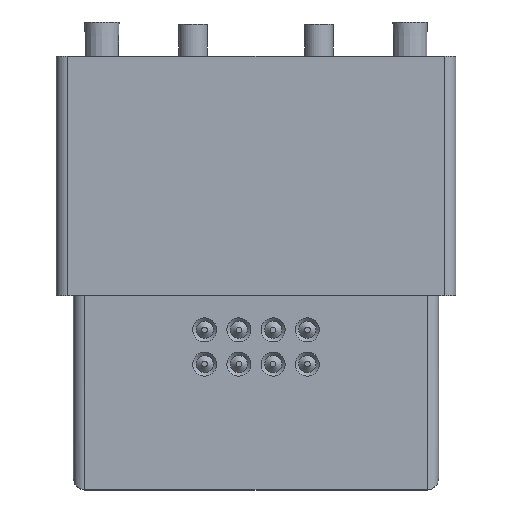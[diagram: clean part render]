
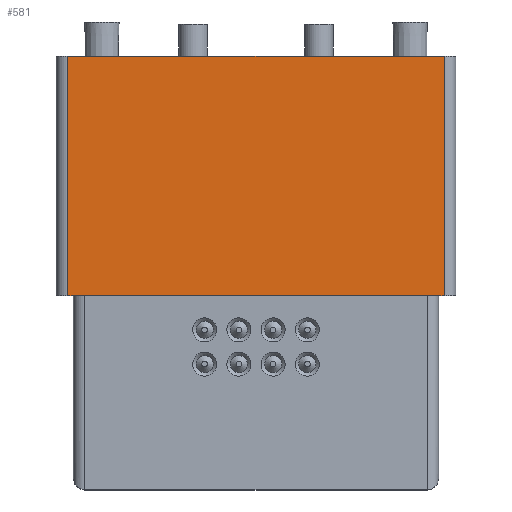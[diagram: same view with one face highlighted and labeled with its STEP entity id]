
A CAD part, top view. The second image highlights one B-rep face of the part: STEP entity #581.
In plain terms, the highlighted planar face has unit normal (0, 0, 1).
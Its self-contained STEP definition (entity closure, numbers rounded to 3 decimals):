
#581=ADVANCED_FACE('',(#1285),#1286,.T.);
#1285=FACE_OUTER_BOUND('',#2108,.T.);
#1286=PLANE('',#2109);
#2108=EDGE_LOOP('',(#3745,#3746,#3747,#3748,#3749,#3750));
#2109=AXIS2_PLACEMENT_3D('',#3751,#3752,#3753);
#3745=ORIENTED_EDGE('',*,*,#4872,.T.);
#3746=ORIENTED_EDGE('',*,*,#4873,.T.);
#3747=ORIENTED_EDGE('',*,*,#4862,.T.);
#3748=ORIENTED_EDGE('',*,*,#4798,.T.);
#3749=ORIENTED_EDGE('',*,*,#4844,.T.);
#3750=ORIENTED_EDGE('',*,*,#4870,.T.);
#3751=CARTESIAN_POINT('',(-17.5,-21.0,12.5));
#3752=DIRECTION('',(0.0,0.0,1.0));
#3753=DIRECTION('',(1.0,0.0,0.0));
#4798=EDGE_CURVE('',#5138,#5775,#5776,.T.);
#4844=EDGE_CURVE('',#5775,#5835,#5836,.T.);
#4862=EDGE_CURVE('',#5861,#5138,#5862,.T.);
#4870=EDGE_CURVE('',#5835,#5873,#5875,.T.);
#4872=EDGE_CURVE('',#5873,#5877,#5878,.T.);
#4873=EDGE_CURVE('',#5877,#5861,#5879,.T.);
#5138=VERTEX_POINT('',#6224);
#5775=VERTEX_POINT('',#7108);
#5776=LINE('',#7109,#7110);
#5835=VERTEX_POINT('',#7185);
#5836=LINE('',#7186,#7187);
#5861=VERTEX_POINT('',#7220);
#5862=LINE('',#7221,#7222);
#5873=VERTEX_POINT('',#7236);
#5875=LINE('',#7238,#7239);
#5877=VERTEX_POINT('',#7241);
#5878=LINE('',#7242,#7243);
#5879=LINE('',#7244,#7245);
#6224=CARTESIAN_POINT('',(-16.0,-21.0,12.5));
#7108=CARTESIAN_POINT('',(16.0,-21.0,12.5));
#7109=CARTESIAN_POINT('',(-17.5,-21.0,12.5));
#7110=VECTOR('',#8040,1.0);
#7185=CARTESIAN_POINT('',(16.5,-21.0,12.5));
#7186=CARTESIAN_POINT('',(-17.5,-21.0,12.5));
#7187=VECTOR('',#8081,1.0);
#7220=CARTESIAN_POINT('',(-16.5,-21.0,12.5));
#7221=CARTESIAN_POINT('',(-17.5,-21.0,12.5));
#7222=VECTOR('',#8105,1.0);
#7236=CARTESIAN_POINT('',(16.5,0.0,12.5));
#7238=CARTESIAN_POINT('',(16.5,0.0,12.5));
#7239=VECTOR('',#8118,1.0);
#7241=CARTESIAN_POINT('',(-16.5,0.0,12.5));
#7242=CARTESIAN_POINT('',(17.5,0.0,12.5));
#7243=VECTOR('',#8119,1.0);
#7244=CARTESIAN_POINT('',(-16.5,-21.0,12.5));
#7245=VECTOR('',#8120,1.0);
#8040=DIRECTION('',(1.0,0.0,0.0));
#8081=DIRECTION('',(1.0,0.0,0.0));
#8105=DIRECTION('',(1.0,0.0,0.0));
#8118=DIRECTION('',(0.0,1.0,0.0));
#8119=DIRECTION('',(-1.0,0.0,0.0));
#8120=DIRECTION('',(0.0,-1.0,0.0));
